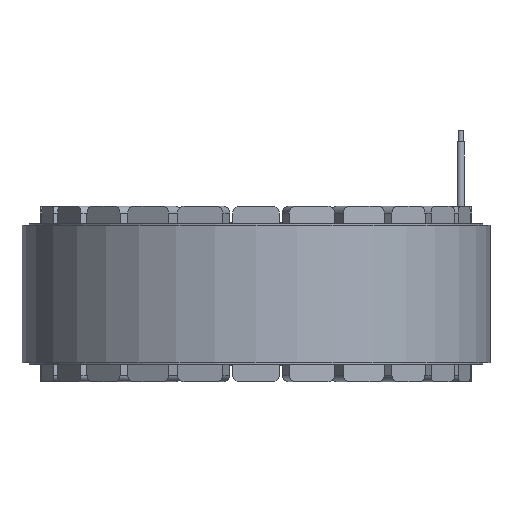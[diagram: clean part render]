
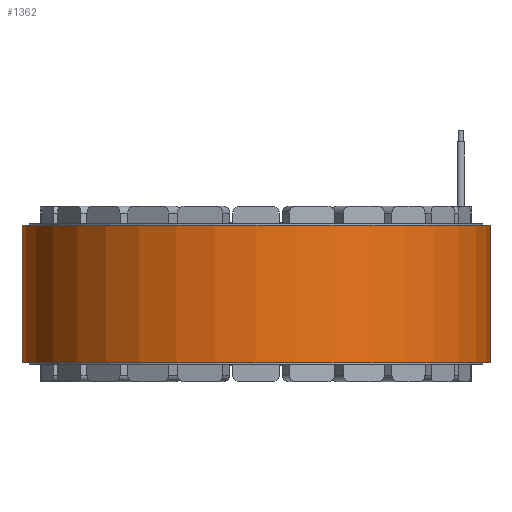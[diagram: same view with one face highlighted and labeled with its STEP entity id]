
A CAD part, front view. The second image highlights one B-rep face of the part: STEP entity #1362.
In plain terms, the highlighted cylindrical face has radius 80 mm (diameter 160 mm), a full revolution.
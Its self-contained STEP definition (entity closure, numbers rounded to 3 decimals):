
#1362 = ADVANCED_FACE ( 'NONE', ( #1527, #20060 ), #11501, .T. ) ;
#1527 = FACE_OUTER_BOUND ( 'NONE', #2297, .T. ) ;
#2297 = EDGE_LOOP ( 'NONE', ( #7023 ) ) ;
#3107 = AXIS2_PLACEMENT_3D ( 'NONE', #9599, #16285, #6422 ) ;
#3158 = EDGE_CURVE ( 'NONE', #18512, #18512, #16624, .T. ) ;
#3290 = CARTESIAN_POINT ( 'NONE',  ( 0., 0., 48. ) ) ;
#3322 = AXIS2_PLACEMENT_3D ( 'NONE', #10190, #7010, #18739 ) ;
#6422 = DIRECTION ( 'NONE',  ( -1., 0., 0. ) ) ;
#7010 = DIRECTION ( 'NONE',  ( 0., 0., 1. ) ) ;
#7023 = ORIENTED_EDGE ( 'NONE', *, *, #3158, .F. ) ;
#8438 = CARTESIAN_POINT ( 'NONE',  ( 80., 0., 47.5 ) ) ;
#8552 = DIRECTION ( 'NONE',  ( -1., 0., 0. ) ) ;
#9599 = CARTESIAN_POINT ( 'NONE',  ( 0., 0., 0.5 ) ) ;
#10190 = CARTESIAN_POINT ( 'NONE',  ( 0., 0., 47.5 ) ) ;
#11501 = CYLINDRICAL_SURFACE ( 'NONE', #17971, 80. ) ;
#13372 = VERTEX_POINT ( 'NONE', #20056 ) ;
#14240 = EDGE_CURVE ( 'NONE', #13372, #13372, #15025, .T. ) ;
#15025 = CIRCLE ( 'NONE', #3107, 80. ) ;
#16285 = DIRECTION ( 'NONE',  ( 0., 0., -1. ) ) ;
#16439 = DIRECTION ( 'NONE',  ( 0., 0., -1. ) ) ;
#16624 = CIRCLE ( 'NONE', #3322, 80. ) ;
#17971 = AXIS2_PLACEMENT_3D ( 'NONE', #3290, #16439, #8552 ) ;
#18512 = VERTEX_POINT ( 'NONE', #8438 ) ;
#18739 = DIRECTION ( 'NONE',  ( 1., 0., 0. ) ) ;
#20056 = CARTESIAN_POINT ( 'NONE',  ( -80., 0., 0.5 ) ) ;
#20060 = FACE_OUTER_BOUND ( 'NONE', #21005, .T. ) ;
#20125 = ORIENTED_EDGE ( 'NONE', *, *, #14240, .F. ) ;
#21005 = EDGE_LOOP ( 'NONE', ( #20125 ) ) ;
